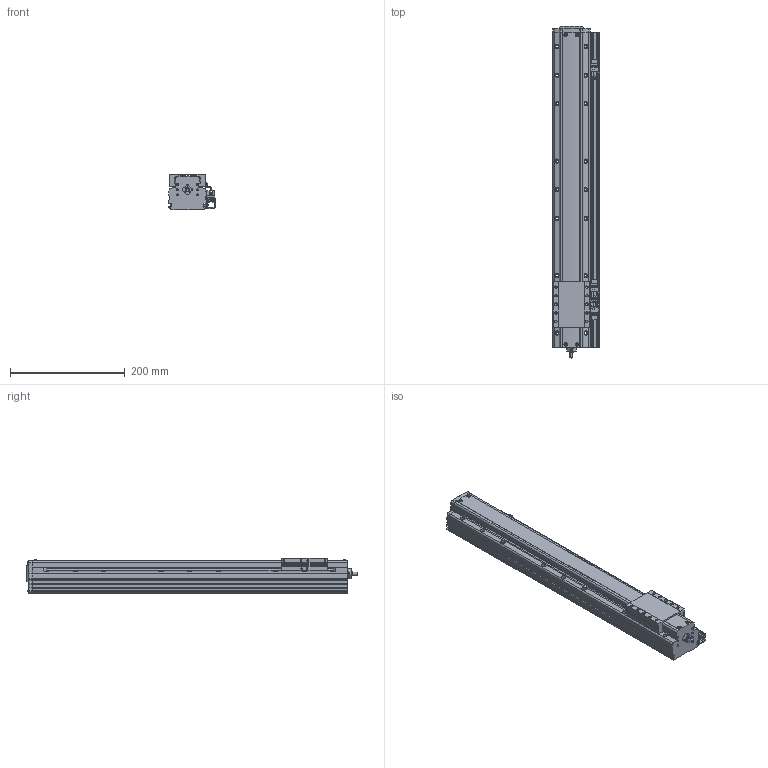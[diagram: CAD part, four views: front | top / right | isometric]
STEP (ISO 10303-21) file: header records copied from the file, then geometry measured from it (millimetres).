
FILE_DESCRIPTION(('STEP AP214'),'1');
FILE_NAME('Z:/Web/3D/PSA65/STP/PSA65-400 (3D)/PSA65ㅁㅁ-400+3SR.stp','2014-06-25T04:52:01',(' '),(' '),'Spatial InterOp 3D',' ',' ');
FILE_SCHEMA(('automotive_design'));
Length unit declared in the file: millimetre
Products named in the file (62): SLIDE; RRCV-PA060; 1; 2; 3; 4; 5; 6; 7; 8; 9; 10; 11; 12; 13; 14; 15; 16; 17; 18; 19; 20; 21; 22; 23; 24; 25; 26; 27; 28; 29; 30; 31; 스크루 : Round - M3.0 x 8.0; RN8 x 0.75; SHAFT-SAN65; BASE; 스크루 : Round - M3.0 x 6.0; EE-SX674; SBK-SX674-352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
Bounding box: 81 x 579.3 x 62 mm (x, y, z)
Volume: 1801540.6 mm3; surface area: 303772.4 mm2
Topology: 62 solids, 62 shells, 2149 faces, 5697 edges, 3664 vertices
Faces by surface type: plane 1342, cylinder 551, cone 183, sphere 42, torus 16, bspline 15
Entity records: 85143 total; most frequent: CARTESIAN_POINT 12957, DIRECTION 11380, ORIENTED_EDGE 11166, EDGE_CURVE 5583, LINE 4006, VECTOR 4006, AXIS2_PLACEMENT_3D 3687, VERTEX_POINT 3664
